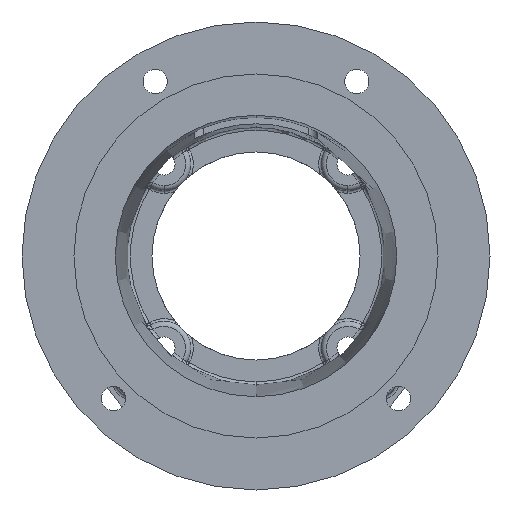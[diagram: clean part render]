
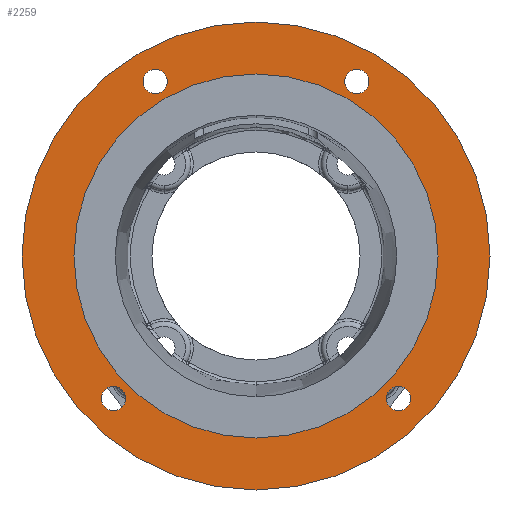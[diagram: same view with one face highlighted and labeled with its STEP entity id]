
A CAD part, front view. The second image highlights one B-rep face of the part: STEP entity #2259.
In plain terms, the highlighted planar face has unit normal (0, -1, 0).
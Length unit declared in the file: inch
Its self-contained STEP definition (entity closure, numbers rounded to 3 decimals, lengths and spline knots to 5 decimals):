
#151 = VERTEX_POINT ( 'NONE', #7837 ) ;
#454 = AXIS2_PLACEMENT_3D ( 'NONE', #3228, #3176, #3278 ) ;
#477 = VERTEX_POINT ( 'NONE', #5750 ) ;
#505 = DIRECTION ( 'NONE',  ( 0., 0., -1. ) ) ;
#702 = DIRECTION ( 'NONE',  ( 0., 0., -1. ) ) ;
#909 = AXIS2_PLACEMENT_3D ( 'NONE', #2154, #8707, #3086 ) ;
#935 = EDGE_LOOP ( 'NONE', ( #2398, #2373 ) ) ;
#1000 = DIRECTION ( 'NONE',  ( 0., 0., -1. ) ) ;
#1060 = CIRCLE ( 'NONE', #4830, 4.5 ) ;
#1245 = DIRECTION ( 'NONE',  ( 0., -1., 0. ) ) ;
#1368 = CARTESIAN_POINT ( 'NONE',  ( 0., 0., 0. ) ) ;
#1412 = CIRCLE ( 'NONE', #9436, 0.23438 ) ;
#1487 = DIRECTION ( 'NONE',  ( 0., 1., 0. ) ) ;
#1501 = PLANE ( 'NONE',  #8612 ) ;
#1516 = DIRECTION ( 'NONE',  ( 0., 0., 1. ) ) ;
#1620 = DIRECTION ( 'NONE',  ( 0., -1., 0. ) ) ;
#1784 = ORIENTED_EDGE ( 'NONE', *, *, #10267, .F. ) ;
#1835 = CARTESIAN_POINT ( 'NONE',  ( -1.9375, 0., 3.35585 ) ) ;
#1910 = CIRCLE ( 'NONE', #8550, 3.501 ) ;
#1990 = CARTESIAN_POINT ( 'NONE',  ( 1.9375, 0., 3.59022 ) ) ;
#2154 = CARTESIAN_POINT ( 'NONE',  ( 1.9375, 0., 3.35585 ) ) ;
#2246 = VERTEX_POINT ( 'NONE', #3029 ) ;
#2259 = ADVANCED_FACE ( 'NONE', ( #8614, #8346, #6426, #3647, #5811, #3352 ), #1501, .F. ) ;
#2312 = CARTESIAN_POINT ( 'NONE',  ( -1.9375, 0., 3.35585 ) ) ;
#2373 = ORIENTED_EDGE ( 'NONE', *, *, #8015, .F. ) ;
#2398 = ORIENTED_EDGE ( 'NONE', *, *, #8723, .F. ) ;
#2488 = ORIENTED_EDGE ( 'NONE', *, *, #7606, .F. ) ;
#2528 = VERTEX_POINT ( 'NONE', #8258 ) ;
#2705 = ORIENTED_EDGE ( 'NONE', *, *, #7264, .F. ) ;
#2766 = DIRECTION ( 'NONE',  ( 0., 0., -1. ) ) ;
#2939 = CARTESIAN_POINT ( 'NONE',  ( -1.9375, 0., 3.12147 ) ) ;
#3029 = CARTESIAN_POINT ( 'NONE',  ( 0., 0., -3.501 ) ) ;
#3062 = EDGE_CURVE ( 'NONE', #2246, #2528, #1910, .T. ) ;
#3086 = DIRECTION ( 'NONE',  ( 0., 0., -1. ) ) ;
#3147 = CARTESIAN_POINT ( 'NONE',  ( -4.5, 0., 0. ) ) ;
#3176 = DIRECTION ( 'NONE',  ( 0., -1., 0. ) ) ;
#3228 = CARTESIAN_POINT ( 'NONE',  ( 1.9375, 0., 3.35585 ) ) ;
#3265 = DIRECTION ( 'NONE',  ( 0., 0., -1. ) ) ;
#3278 = DIRECTION ( 'NONE',  ( 0., 0., -1. ) ) ;
#3352 = FACE_OUTER_BOUND ( 'NONE', #10814, .T. ) ;
#3480 = EDGE_CURVE ( 'NONE', #5431, #10037, #6139, .T. ) ;
#3549 = DIRECTION ( 'NONE',  ( 0., -1., 0. ) ) ;
#3647 = FACE_BOUND ( 'NONE', #8936, .T. ) ;
#3833 = ORIENTED_EDGE ( 'NONE', *, *, #3480, .F. ) ;
#3906 = VERTEX_POINT ( 'NONE', #5340 ) ;
#4074 = AXIS2_PLACEMENT_3D ( 'NONE', #2312, #8858, #3265 ) ;
#4375 = CIRCLE ( 'NONE', #6007, 0.23438 ) ;
#4830 = AXIS2_PLACEMENT_3D ( 'NONE', #1368, #1245, #702 ) ;
#4930 = EDGE_CURVE ( 'NONE', #9571, #151, #4375, .T. ) ;
#5089 = AXIS2_PLACEMENT_3D ( 'NONE', #1835, #8396, #2766 ) ;
#5178 = ORIENTED_EDGE ( 'NONE', *, *, #7422, .T. ) ;
#5308 = DIRECTION ( 'NONE',  ( 0., 0., -1. ) ) ;
#5340 = CARTESIAN_POINT ( 'NONE',  ( 2.74004, 0., -2.50566 ) ) ;
#5357 = CARTESIAN_POINT ( 'NONE',  ( 2.74004, 0., -2.74004 ) ) ;
#5369 = CIRCLE ( 'NONE', #12043, 4.5 ) ;
#5426 = CARTESIAN_POINT ( 'NONE',  ( 1.9375, 0., 3.12147 ) ) ;
#5431 = VERTEX_POINT ( 'NONE', #5426 ) ;
#5480 = DIRECTION ( 'NONE',  ( 0., -1., 0. ) ) ;
#5492 = CARTESIAN_POINT ( 'NONE',  ( 0., 0., 0. ) ) ;
#5750 = CARTESIAN_POINT ( 'NONE',  ( 2.74004, 0., -2.97441 ) ) ;
#5811 = FACE_BOUND ( 'NONE', #8658, .T. ) ;
#5887 = ORIENTED_EDGE ( 'NONE', *, *, #6224, .T. ) ;
#6007 = AXIS2_PLACEMENT_3D ( 'NONE', #8895, #8855, #8823 ) ;
#6021 = ORIENTED_EDGE ( 'NONE', *, *, #3062, .F. ) ;
#6053 = AXIS2_PLACEMENT_3D ( 'NONE', #7258, #1620, #8198 ) ;
#6139 = CIRCLE ( 'NONE', #454, 0.23438 ) ;
#6203 = DIRECTION ( 'NONE',  ( 0., -1., 0. ) ) ;
#6224 = EDGE_CURVE ( 'NONE', #11854, #10738, #1060, .T. ) ;
#6248 = CIRCLE ( 'NONE', #6053, 0.23438 ) ;
#6315 = DIRECTION ( 'NONE',  ( 0., 0., -1. ) ) ;
#6426 = FACE_BOUND ( 'NONE', #935, .T. ) ;
#6663 = DIRECTION ( 'NONE',  ( 0., -1., 0. ) ) ;
#6704 = CIRCLE ( 'NONE', #5089, 0.23438 ) ;
#6764 = VERTEX_POINT ( 'NONE', #2939 ) ;
#6789 = CARTESIAN_POINT ( 'NONE',  ( 0., 0., -4.5 ) ) ;
#6847 = CIRCLE ( 'NONE', #909, 0.23438 ) ;
#7020 = VERTEX_POINT ( 'NONE', #9138 ) ;
#7153 = EDGE_CURVE ( 'NONE', #10037, #5431, #6847, .T. ) ;
#7258 = CARTESIAN_POINT ( 'NONE',  ( 2.74004, 0., -2.74004 ) ) ;
#7264 = EDGE_CURVE ( 'NONE', #6764, #7020, #11659, .T. ) ;
#7422 = EDGE_CURVE ( 'NONE', #10738, #11854, #5369, .T. ) ;
#7549 = EDGE_CURVE ( 'NONE', #7020, #6764, #6704, .T. ) ;
#7606 = EDGE_CURVE ( 'NONE', #151, #9571, #1412, .T. ) ;
#7817 = CIRCLE ( 'NONE', #9980, 3.501 ) ;
#7837 = CARTESIAN_POINT ( 'NONE',  ( -2.74004, 0., -2.50566 ) ) ;
#8015 = EDGE_CURVE ( 'NONE', #3906, #477, #10531, .T. ) ;
#8198 = DIRECTION ( 'NONE',  ( 0., 0., -1. ) ) ;
#8258 = CARTESIAN_POINT ( 'NONE',  ( 0., 0., 3.501 ) ) ;
#8346 = FACE_BOUND ( 'NONE', #9463, .T. ) ;
#8396 = DIRECTION ( 'NONE',  ( 0., -1., 0. ) ) ;
#8550 = AXIS2_PLACEMENT_3D ( 'NONE', #5492, #5480, #5308 ) ;
#8612 = AXIS2_PLACEMENT_3D ( 'NONE', #3147, #1487, #1516 ) ;
#8614 = FACE_BOUND ( 'NONE', #11008, .T. ) ;
#8632 = ORIENTED_EDGE ( 'NONE', *, *, #4930, .F. ) ;
#8658 = EDGE_LOOP ( 'NONE', ( #6021, #1784 ) ) ;
#8707 = DIRECTION ( 'NONE',  ( 0., -1., 0. ) ) ;
#8723 = EDGE_CURVE ( 'NONE', #477, #3906, #6248, .T. ) ;
#8823 = DIRECTION ( 'NONE',  ( 0., 0., -1. ) ) ;
#8855 = DIRECTION ( 'NONE',  ( 0., -1., 0. ) ) ;
#8858 = DIRECTION ( 'NONE',  ( 0., -1., 0. ) ) ;
#8895 = CARTESIAN_POINT ( 'NONE',  ( -2.74004, 0., -2.74004 ) ) ;
#8918 = ORIENTED_EDGE ( 'NONE', *, *, #7153, .F. ) ;
#8936 = EDGE_LOOP ( 'NONE', ( #8632, #2488 ) ) ;
#9125 = CARTESIAN_POINT ( 'NONE',  ( 0., 0., 0. ) ) ;
#9138 = CARTESIAN_POINT ( 'NONE',  ( -1.9375, 0., 3.59022 ) ) ;
#9436 = AXIS2_PLACEMENT_3D ( 'NONE', #12047, #6663, #1000 ) ;
#9463 = EDGE_LOOP ( 'NONE', ( #3833, #8918 ) ) ;
#9571 = VERTEX_POINT ( 'NONE', #9899 ) ;
#9817 = AXIS2_PLACEMENT_3D ( 'NONE', #5357, #11750, #6315 ) ;
#9899 = CARTESIAN_POINT ( 'NONE',  ( -2.74004, 0., -2.97441 ) ) ;
#9980 = AXIS2_PLACEMENT_3D ( 'NONE', #11637, #6203, #505 ) ;
#9998 = DIRECTION ( 'NONE',  ( 0., 0., -1. ) ) ;
#10037 = VERTEX_POINT ( 'NONE', #1990 ) ;
#10044 = ORIENTED_EDGE ( 'NONE', *, *, #7549, .F. ) ;
#10267 = EDGE_CURVE ( 'NONE', #2528, #2246, #7817, .T. ) ;
#10531 = CIRCLE ( 'NONE', #9817, 0.23438 ) ;
#10678 = CARTESIAN_POINT ( 'NONE',  ( 0., 0., 4.5 ) ) ;
#10738 = VERTEX_POINT ( 'NONE', #10678 ) ;
#10814 = EDGE_LOOP ( 'NONE', ( #5887, #5178 ) ) ;
#11008 = EDGE_LOOP ( 'NONE', ( #2705, #10044 ) ) ;
#11637 = CARTESIAN_POINT ( 'NONE',  ( 0., 0., 0. ) ) ;
#11659 = CIRCLE ( 'NONE', #4074, 0.23438 ) ;
#11750 = DIRECTION ( 'NONE',  ( 0., -1., 0. ) ) ;
#11854 = VERTEX_POINT ( 'NONE', #6789 ) ;
#12043 = AXIS2_PLACEMENT_3D ( 'NONE', #9125, #3549, #9998 ) ;
#12047 = CARTESIAN_POINT ( 'NONE',  ( -2.74004, 0., -2.74004 ) ) ;
